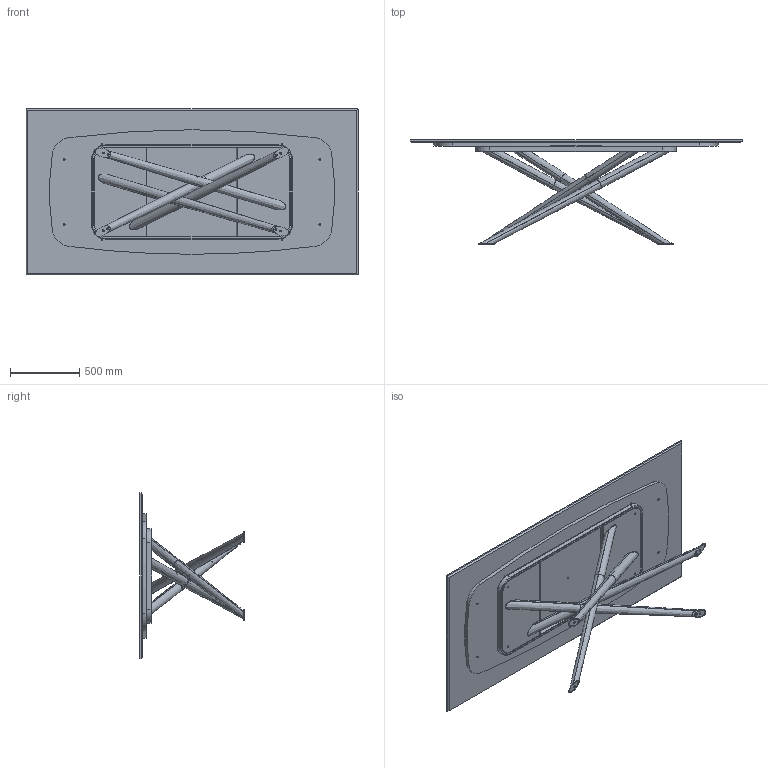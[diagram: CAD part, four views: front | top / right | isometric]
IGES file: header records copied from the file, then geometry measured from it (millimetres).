
Start section: SolidWorks IGES file using analytic representation for surfaces
Global section: file name: Y:\eforma\TECNICO\SOLIDWORKS\E-FORMA\1-TAVOLI\BALY\02 parts\BA23M.IGS; native system: SolidWorks 2022; preprocessor: SolidWorks 2022; author: eforma.tech; date: 240808.081842; units: millimetre
Bounding box: 2400 x 754 x 1200 mm (x, y, z)
Volume: 106077754 mm3; surface area: 13676001.5 mm2
Topology: 28 solids, 28 shells, 719 faces, 1529 edges, 841 vertices
Faces by surface type: revolution 405, plane 296, bspline 18
